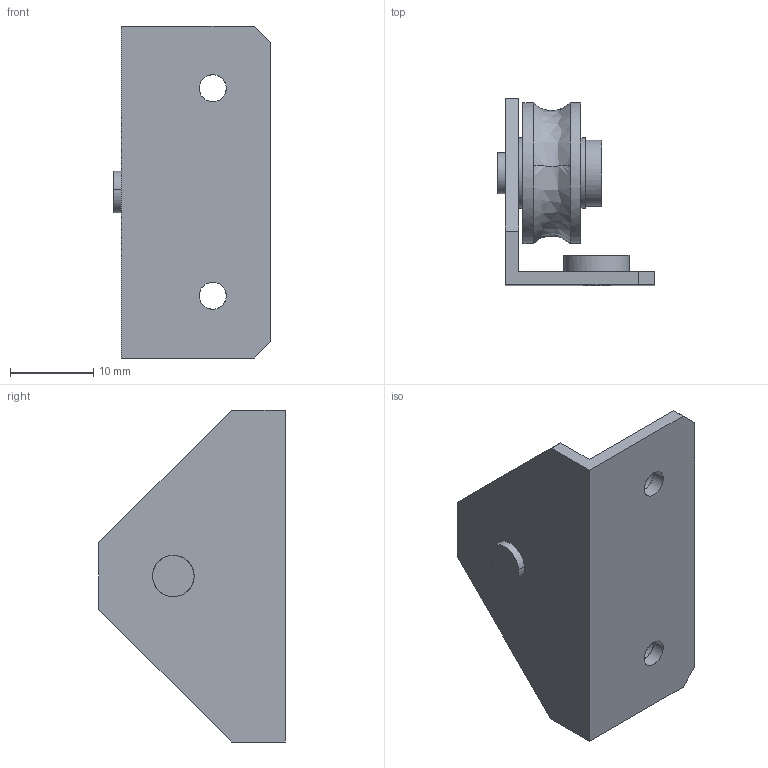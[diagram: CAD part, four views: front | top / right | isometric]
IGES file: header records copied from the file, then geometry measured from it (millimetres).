
Global section: file name: No Iges File Name specified; native system: AutoDesk Inventor R11.0; preprocessor: AutoDesk Inventor Iges Exporter R11.0; author: No Author specified; organization: No Organization specified; date: 20190426.192334; units: millimetre
Bounding box: 19 x 22.5 x 40 mm (x, y, z)
Surface area: 4054.6 mm2 (no closed solid volume)
Topology: 0 solids, 0 shells, 50 faces, 332 edges, 332 vertices
Faces by surface type: bspline 50
